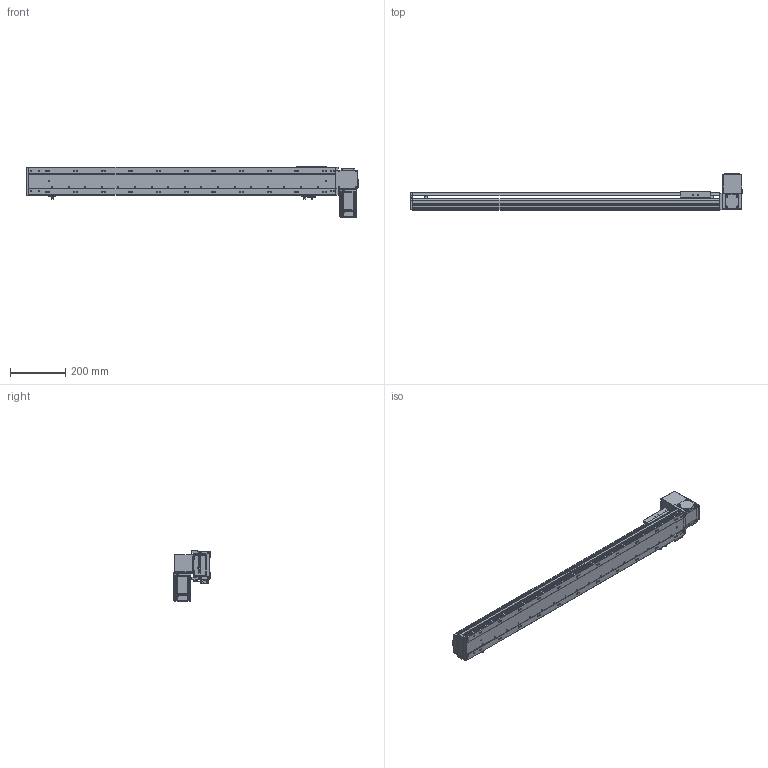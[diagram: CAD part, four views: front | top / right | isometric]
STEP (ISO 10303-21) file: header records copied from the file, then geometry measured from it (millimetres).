
FILE_DESCRIPTION (( 'STEP AP203' ), '1' );
FILE_NAME ('RY100-T-300-UL.SLDASM_900.step', '2024-04-25T08:39:53', ( '盈信电脑' ), ( '东莞市道滘镇水果街19号' ), 'SwSTEP 2.0', 'SolidWorks 2016', '' );
FILE_SCHEMA (( 'CONFIG_CONTROL_DESIGN' ));
Length unit declared in the file: millimetre
Products named in the file (15): RY100-T肮祭謫翋盓傅釱; RY100-T-300-RK倰第奻裔_900; RY100-T翋肮祭謫裔啣; 滅袉蝶18-10; 1; RY100俋离覜茼え; RY100綴裔啣; RY100-T-300-RK倰第菁釱_900; RY100-T粣創揤踡裔; RY100-T肮祭謫臏賑輸; RY100-T-300-UL.SLDASM_900; RY100-T左右折电机安装板; RY80-T肮祭謫奻殏俋欶; RY100-T翋肮祭謫裔啣2; 覜茼ん672
Assembly tree (17 placements, depth 2):
  RY100-T-300-UL.SLDASM_900
    RY100-T-300-RK倰第菁釱_900
    RY100-T-300-RK倰第奻裔_900
    RY100-T肮祭謫臏賑輸
    RY100綴裔啣
    覜茼ん672  x3
    RY100俋离覜茼え
    RY100-T肮祭謫翋盓傅釱
    滅袉蝶18-10  x2
    RY100-T翋肮祭謫裔啣2
    RY100-T翋肮祭謫裔啣
    1
    RY100-T左右折电机安装板
    RY80-T肮祭謫奻殏俋欶
    RY100-T粣創揤踡裔
Bounding box: 1200 x 130.5 x 182.5 mm (x, y, z)
Volume: 2461817.8 mm3; surface area: 1012863.8 mm2
Topology: 17 solids, 17 shells, 2285 faces, 6387 edges, 4151 vertices
Faces by surface type: plane 1219, cylinder 849, cone 139, bspline 78
Entity records: 74395 total; most frequent: CARTESIAN_POINT 18251, ORIENTED_EDGE 11606, DIRECTION 11005, EDGE_CURVE 5803, VERTEX_POINT 3819, LINE 3693, VECTOR 3693, AXIS2_PLACEMENT_3D 3656
